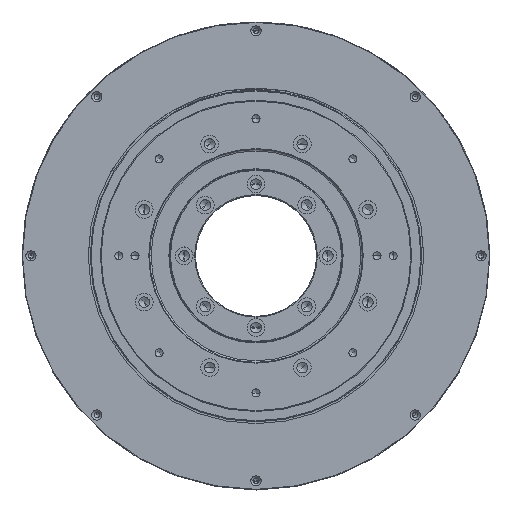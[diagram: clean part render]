
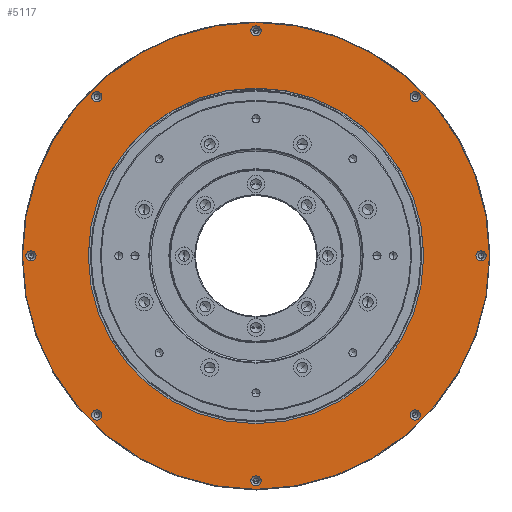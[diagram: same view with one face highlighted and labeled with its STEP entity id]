
A CAD part, top view. The second image highlights one B-rep face of the part: STEP entity #5117.
In plain terms, the highlighted planar face has unit normal (0, 0, 1).
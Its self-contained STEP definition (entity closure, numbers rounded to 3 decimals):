
#584=CARTESIAN_POINT('',(0.,0.,89.4));
#585=DIRECTION('',(0.,0.,1.));
#586=DIRECTION('',(-1.,0.,0.));
#587=AXIS2_PLACEMENT_3D('',#584,#585,#586);
#589=CARTESIAN_POINT('',(0.,0.,89.4));
#590=DIRECTION('',(0.,0.,1.));
#591=DIRECTION('',(1.,0.,0.));
#592=AXIS2_PLACEMENT_3D('',#589,#590,#591);
#594=CARTESIAN_POINT('',(-98.641,98.641,89.4));
#595=DIRECTION('',(0.,0.,-1.));
#596=DIRECTION('',(-0.707,-0.707,0.));
#597=AXIS2_PLACEMENT_3D('',#594,#595,#596);
#599=CARTESIAN_POINT('',(-98.641,98.641,89.4));
#600=DIRECTION('',(0.,0.,-1.));
#601=DIRECTION('',(0.707,0.707,0.));
#602=AXIS2_PLACEMENT_3D('',#599,#600,#601);
#604=CARTESIAN_POINT('',(-139.5,0.,89.4));
#605=DIRECTION('',(0.,0.,-1.));
#606=DIRECTION('',(0.,-1.,0.));
#607=AXIS2_PLACEMENT_3D('',#604,#605,#606);
#609=CARTESIAN_POINT('',(-139.5,0.,89.4));
#610=DIRECTION('',(0.,0.,-1.));
#611=DIRECTION('',(0.,1.,0.));
#612=AXIS2_PLACEMENT_3D('',#609,#610,#611);
#614=CARTESIAN_POINT('',(-98.641,-98.641,89.4));
#615=DIRECTION('',(0.,0.,-1.));
#616=DIRECTION('',(0.707,-0.707,0.));
#617=AXIS2_PLACEMENT_3D('',#614,#615,#616);
#619=CARTESIAN_POINT('',(-98.641,-98.641,89.4));
#620=DIRECTION('',(0.,0.,-1.));
#621=DIRECTION('',(-0.707,0.707,0.));
#622=AXIS2_PLACEMENT_3D('',#619,#620,#621);
#624=CARTESIAN_POINT('',(0.,-139.5,89.4));
#625=DIRECTION('',(0.,0.,-1.));
#626=DIRECTION('',(1.,0.,0.));
#627=AXIS2_PLACEMENT_3D('',#624,#625,#626);
#629=CARTESIAN_POINT('',(0.,-139.5,89.4));
#630=DIRECTION('',(0.,0.,-1.));
#631=DIRECTION('',(-1.,0.,0.));
#632=AXIS2_PLACEMENT_3D('',#629,#630,#631);
#634=CARTESIAN_POINT('',(98.641,-98.641,89.4));
#635=DIRECTION('',(0.,0.,-1.));
#636=DIRECTION('',(0.707,0.707,0.));
#637=AXIS2_PLACEMENT_3D('',#634,#635,#636);
#639=CARTESIAN_POINT('',(98.641,-98.641,89.4));
#640=DIRECTION('',(0.,0.,-1.));
#641=DIRECTION('',(-0.707,-0.707,0.));
#642=AXIS2_PLACEMENT_3D('',#639,#640,#641);
#644=CARTESIAN_POINT('',(139.5,0.,89.4));
#645=DIRECTION('',(0.,0.,-1.));
#646=DIRECTION('',(0.,1.,0.));
#647=AXIS2_PLACEMENT_3D('',#644,#645,#646);
#649=CARTESIAN_POINT('',(139.5,0.,89.4));
#650=DIRECTION('',(0.,0.,-1.));
#651=DIRECTION('',(0.,-1.,0.));
#652=AXIS2_PLACEMENT_3D('',#649,#650,#651);
#654=CARTESIAN_POINT('',(98.641,98.641,89.4));
#655=DIRECTION('',(0.,0.,-1.));
#656=DIRECTION('',(-0.707,0.707,0.));
#657=AXIS2_PLACEMENT_3D('',#654,#655,#656);
#659=CARTESIAN_POINT('',(98.641,98.641,89.4));
#660=DIRECTION('',(0.,0.,-1.));
#661=DIRECTION('',(0.707,-0.707,0.));
#662=AXIS2_PLACEMENT_3D('',#659,#660,#661);
#664=CARTESIAN_POINT('',(0.,139.5,89.4));
#665=DIRECTION('',(0.,0.,-1.));
#666=DIRECTION('',(-1.,0.,0.));
#667=AXIS2_PLACEMENT_3D('',#664,#665,#666);
#669=CARTESIAN_POINT('',(0.,139.5,89.4));
#670=DIRECTION('',(0.,0.,-1.));
#671=DIRECTION('',(1.,0.,0.));
#672=AXIS2_PLACEMENT_3D('',#669,#670,#671);
#674=CARTESIAN_POINT('',(0.,0.,89.4));
#675=DIRECTION('',(0.,0.,-1.));
#676=DIRECTION('',(1.,0.,0.));
#677=AXIS2_PLACEMENT_3D('',#674,#675,#676);
#679=CARTESIAN_POINT('',(0.,0.,89.4));
#680=DIRECTION('',(0.,0.,-1.));
#681=DIRECTION('',(-1.,0.,0.));
#682=AXIS2_PLACEMENT_3D('',#679,#680,#681);
#3752=CARTESIAN_POINT('',(-139.5,3.15,89.4));
#3753=CARTESIAN_POINT('',(-139.5,-3.15,89.4));
#3754=VERTEX_POINT('',#3752);
#3755=VERTEX_POINT('',#3753);
#3845=CARTESIAN_POINT('',(-100.869,96.414,89.4));
#3846=VERTEX_POINT('',#3845);
#3876=CARTESIAN_POINT('',(-100.869,-96.414,89.4));
#3877=CARTESIAN_POINT('',(-96.414,-100.869,89.4));
#3878=VERTEX_POINT('',#3876);
#3879=VERTEX_POINT('',#3877);
#3888=CARTESIAN_POINT('',(-96.414,100.869,89.4));
#3889=VERTEX_POINT('',#3888);
#3898=CARTESIAN_POINT('',(3.15,-139.5,89.4));
#3900=VERTEX_POINT('',#3898);
#3904=CARTESIAN_POINT('',(-3.15,-139.5,89.4));
#3905=VERTEX_POINT('',#3904);
#3912=CARTESIAN_POINT('',(100.869,-96.414,89.4));
#3914=VERTEX_POINT('',#3912);
#3918=CARTESIAN_POINT('',(96.414,-100.869,89.4));
#3919=VERTEX_POINT('',#3918);
#3926=CARTESIAN_POINT('',(139.5,3.15,89.4));
#3928=VERTEX_POINT('',#3926);
#3932=CARTESIAN_POINT('',(139.5,-3.15,89.4));
#3933=VERTEX_POINT('',#3932);
#3940=CARTESIAN_POINT('',(96.414,100.869,89.4));
#3942=VERTEX_POINT('',#3940);
#3946=CARTESIAN_POINT('',(100.869,96.414,89.4));
#3947=VERTEX_POINT('',#3946);
#3954=CARTESIAN_POINT('',(-3.15,139.5,89.4));
#3956=VERTEX_POINT('',#3954);
#3960=CARTESIAN_POINT('',(3.15,139.5,89.4));
#3961=VERTEX_POINT('',#3960);
#4629=CARTESIAN_POINT('',(144.75,0.,89.4));
#4631=VERTEX_POINT('',#4629);
#4632=CARTESIAN_POINT('',(-144.75,0.,89.4));
#4633=VERTEX_POINT('',#4632);
#4637=CARTESIAN_POINT('',(104.,0.,89.4));
#4639=VERTEX_POINT('',#4637);
#4640=CARTESIAN_POINT('',(-104.,0.,89.4));
#4641=VERTEX_POINT('',#4640);
#5053=CARTESIAN_POINT('',(0.,0.,89.4));
#5054=DIRECTION('',(0.,0.,1.));
#5055=DIRECTION('',(1.,0.,0.));
#5056=AXIS2_PLACEMENT_3D('',#5053,#5054,#5055);
#5057=PLANE('',#5056);
#5059=ORIENTED_EDGE('',*,*,#5058,.F.);
#5061=ORIENTED_EDGE('',*,*,#5060,.F.);
#5062=EDGE_LOOP('',(#5059,#5061));
#5063=FACE_OUTER_BOUND('',#5062,.F.);
#5065=ORIENTED_EDGE('',*,*,#5064,.F.);
#5067=ORIENTED_EDGE('',*,*,#5066,.F.);
#5068=EDGE_LOOP('',(#5065,#5067));
#5069=FACE_BOUND('',#5068,.F.);
#5071=ORIENTED_EDGE('',*,*,#5070,.F.);
#5073=ORIENTED_EDGE('',*,*,#5072,.F.);
#5074=EDGE_LOOP('',(#5071,#5073));
#5075=FACE_BOUND('',#5074,.F.);
#5077=ORIENTED_EDGE('',*,*,#5076,.F.);
#5079=ORIENTED_EDGE('',*,*,#5078,.F.);
#5080=EDGE_LOOP('',(#5077,#5079));
#5081=FACE_BOUND('',#5080,.F.);
#5083=ORIENTED_EDGE('',*,*,#5082,.F.);
#5085=ORIENTED_EDGE('',*,*,#5084,.F.);
#5086=EDGE_LOOP('',(#5083,#5085));
#5087=FACE_BOUND('',#5086,.F.);
#5089=ORIENTED_EDGE('',*,*,#5088,.F.);
#5091=ORIENTED_EDGE('',*,*,#5090,.F.);
#5092=EDGE_LOOP('',(#5089,#5091));
#5093=FACE_BOUND('',#5092,.F.);
#5095=ORIENTED_EDGE('',*,*,#5094,.F.);
#5097=ORIENTED_EDGE('',*,*,#5096,.F.);
#5098=EDGE_LOOP('',(#5095,#5097));
#5099=FACE_BOUND('',#5098,.F.);
#5101=ORIENTED_EDGE('',*,*,#5100,.F.);
#5103=ORIENTED_EDGE('',*,*,#5102,.F.);
#5104=EDGE_LOOP('',(#5101,#5103));
#5105=FACE_BOUND('',#5104,.F.);
#5107=ORIENTED_EDGE('',*,*,#5106,.F.);
#5109=ORIENTED_EDGE('',*,*,#5108,.F.);
#5110=EDGE_LOOP('',(#5107,#5109));
#5111=FACE_BOUND('',#5110,.F.);
#5112=ORIENTED_EDGE('',*,*,#5043,.F.);
#5114=ORIENTED_EDGE('',*,*,#5113,.F.);
#5115=EDGE_LOOP('',(#5112,#5114));
#5116=FACE_BOUND('',#5115,.F.);
#5117=ADVANCED_FACE('',(#5063,#5069,#5075,#5081,#5087,#5093,#5099,#5105,#5111,
#5116),#5057,.T.);
#588=CIRCLE('',#587,144.75);
#593=CIRCLE('',#592,144.75);
#598=CIRCLE('',#597,3.15);
#603=CIRCLE('',#602,3.15);
#608=CIRCLE('',#607,3.15);
#613=CIRCLE('',#612,3.15);
#618=CIRCLE('',#617,3.15);
#623=CIRCLE('',#622,3.15);
#628=CIRCLE('',#627,3.15);
#633=CIRCLE('',#632,3.15);
#638=CIRCLE('',#637,3.15);
#643=CIRCLE('',#642,3.15);
#648=CIRCLE('',#647,3.15);
#653=CIRCLE('',#652,3.15);
#658=CIRCLE('',#657,3.15);
#663=CIRCLE('',#662,3.15);
#668=CIRCLE('',#667,3.15);
#673=CIRCLE('',#672,3.15);
#678=CIRCLE('',#677,104.);
#683=CIRCLE('',#682,104.);
#5043=EDGE_CURVE('',#4639,#4641,#678,.T.);
#5058=EDGE_CURVE('',#4633,#4631,#588,.T.);
#5060=EDGE_CURVE('',#4631,#4633,#593,.T.);
#5064=EDGE_CURVE('',#3846,#3889,#598,.T.);
#5066=EDGE_CURVE('',#3889,#3846,#603,.T.);
#5070=EDGE_CURVE('',#3755,#3754,#608,.T.);
#5072=EDGE_CURVE('',#3754,#3755,#613,.T.);
#5076=EDGE_CURVE('',#3879,#3878,#618,.T.);
#5078=EDGE_CURVE('',#3878,#3879,#623,.T.);
#5082=EDGE_CURVE('',#3900,#3905,#628,.T.);
#5084=EDGE_CURVE('',#3905,#3900,#633,.T.);
#5088=EDGE_CURVE('',#3914,#3919,#638,.T.);
#5090=EDGE_CURVE('',#3919,#3914,#643,.T.);
#5094=EDGE_CURVE('',#3928,#3933,#648,.T.);
#5096=EDGE_CURVE('',#3933,#3928,#653,.T.);
#5100=EDGE_CURVE('',#3942,#3947,#658,.T.);
#5102=EDGE_CURVE('',#3947,#3942,#663,.T.);
#5106=EDGE_CURVE('',#3956,#3961,#668,.T.);
#5108=EDGE_CURVE('',#3961,#3956,#673,.T.);
#5113=EDGE_CURVE('',#4641,#4639,#683,.T.);
